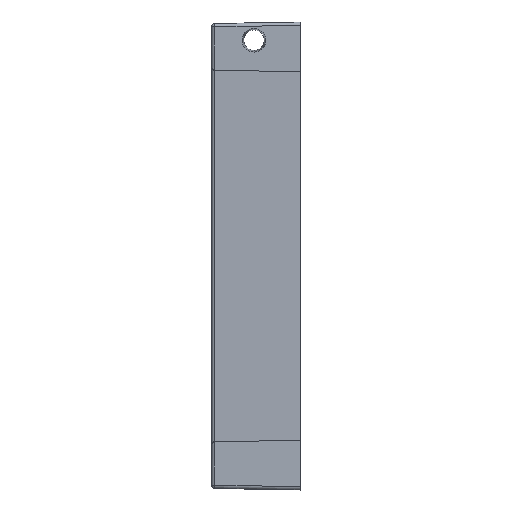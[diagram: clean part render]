
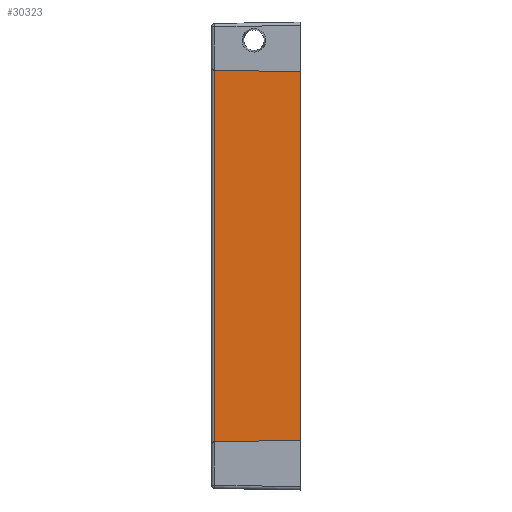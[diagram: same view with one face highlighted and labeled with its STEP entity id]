
A CAD part, front view. The second image highlights one B-rep face of the part: STEP entity #30323.
In plain terms, the highlighted planar face has unit normal (-0.018, -1, 0) as drawn and (0, -1, -0.017) by its records, which use the part's own axes.
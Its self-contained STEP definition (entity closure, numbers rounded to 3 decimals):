
#818 = LINE ( 'NONE', #46459, #53291 ) ;
#2728 = VERTEX_POINT ( 'NONE', #82018 ) ;
#7884 = VECTOR ( 'NONE', #74086, 1000. ) ;
#8096 = PLANE ( 'NONE',  #20598 ) ;
#8432 = DIRECTION ( 'NONE',  ( 1., 0., 0. ) ) ;
#17363 = DIRECTION ( 'NONE',  ( -1., 0., 0. ) ) ;
#20000 = FACE_OUTER_BOUND ( 'NONE', #71276, .T. ) ;
#20598 = AXIS2_PLACEMENT_3D ( 'NONE', #134936, #88835, #134204 ) ;
#27786 = LINE ( 'NONE', #130725, #7884 ) ;
#29368 = ORIENTED_EDGE ( 'NONE', *, *, #141821, .F. ) ;
#30323 = ADVANCED_FACE ( 'NONE', ( #20000 ), #8096, .T. ) ;
#32775 = EDGE_CURVE ( 'NONE', #60173, #2728, #27786, .T. ) ;
#34477 = ORIENTED_EDGE ( 'NONE', *, *, #71391, .T. ) ;
#36331 = VECTOR ( 'NONE', #17363, 1000. ) ;
#39728 = ORIENTED_EDGE ( 'NONE', *, *, #138432, .T. ) ;
#42553 = VERTEX_POINT ( 'NONE', #144032 ) ;
#46459 = CARTESIAN_POINT ( 'NONE',  ( 0.495, -46.195, -0.762 ) ) ;
#53291 = VECTOR ( 'NONE', #122616, 1000. ) ;
#55962 = VECTOR ( 'NONE', #8432, 1000. ) ;
#60173 = VERTEX_POINT ( 'NONE', #80788 ) ;
#71276 = EDGE_LOOP ( 'NONE', ( #125345, #39728, #29368, #34477 ) ) ;
#71391 = EDGE_CURVE ( 'NONE', #106407, #2728, #110756, .T. ) ;
#74086 = DIRECTION ( 'NONE',  ( 0.017, 0.017, -1. ) ) ;
#80788 = CARTESIAN_POINT ( 'NONE',  ( 111.509, -46.191, -1. ) ) ;
#82018 = CARTESIAN_POINT ( 'NONE',  ( 111.959, -45.741, -26.817 ) ) ;
#88835 = DIRECTION ( 'NONE',  ( 0., -1., -0.017 ) ) ;
#90727 = LINE ( 'NONE', #128669, #36331 ) ;
#106407 = VERTEX_POINT ( 'NONE', #123815 ) ;
#110756 = LINE ( 'NONE', #143529, #55962 ) ;
#122616 = DIRECTION ( 'NONE',  ( 0.017, -0.017, 1. ) ) ;
#123815 = CARTESIAN_POINT ( 'NONE',  ( 0.041, -45.741, -26.817 ) ) ;
#125345 = ORIENTED_EDGE ( 'NONE', *, *, #32775, .F. ) ;
#128669 = CARTESIAN_POINT ( 'NONE',  ( -14.5, -46.191, -1. ) ) ;
#130725 = CARTESIAN_POINT ( 'NONE',  ( 111.462, -46.238, 1.698 ) ) ;
#134204 = DIRECTION ( 'NONE',  ( 0., 0.017, -1. ) ) ;
#134936 = CARTESIAN_POINT ( 'NONE',  ( -14.5, -46.2, -0.5 ) ) ;
#138432 = EDGE_CURVE ( 'NONE', #60173, #42553, #90727, .T. ) ;
#141821 = EDGE_CURVE ( 'NONE', #106407, #42553, #818, .T. ) ;
#143529 = CARTESIAN_POINT ( 'NONE',  ( 111.977, -45.741, -26.817 ) ) ;
#144032 = CARTESIAN_POINT ( 'NONE',  ( 0.491, -46.191, -1. ) ) ;
